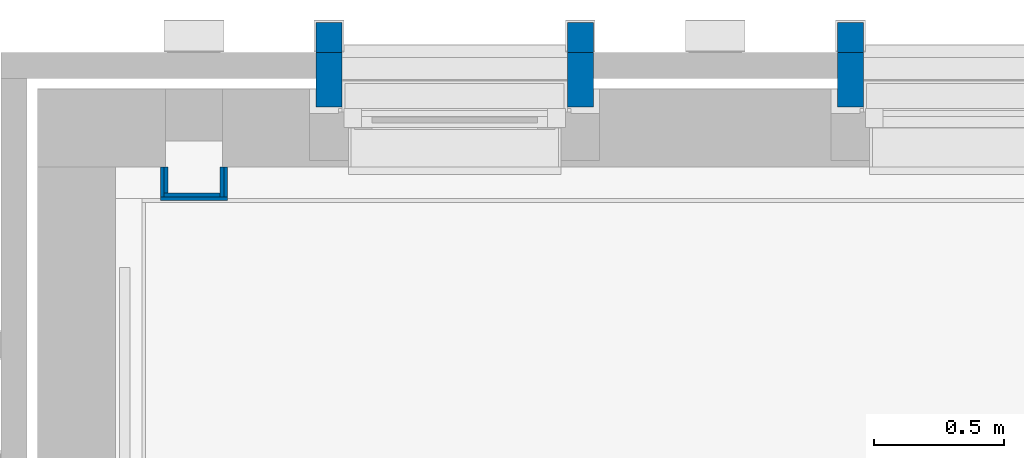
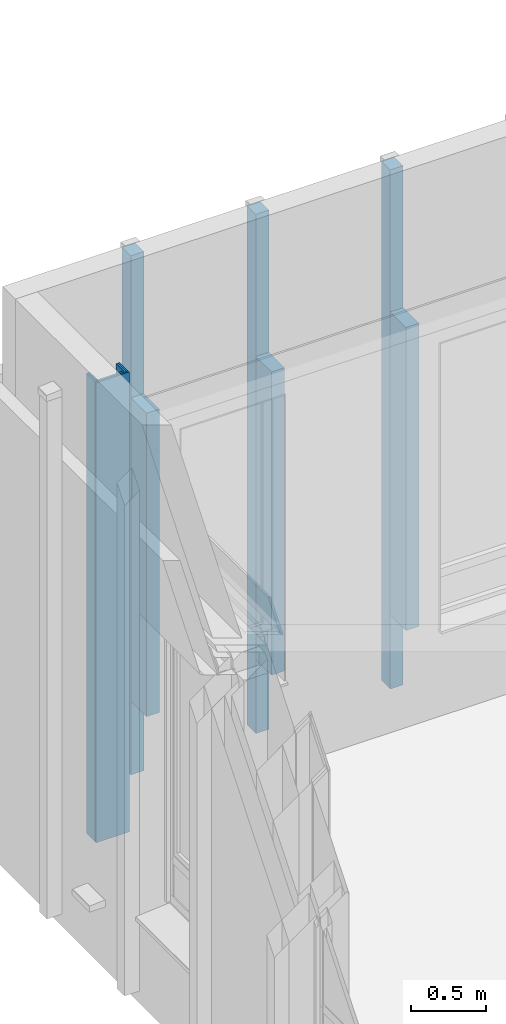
# One storey, part 56 of 118: 12 walls.
"""IFC2X3 building model written with IfcOpenShell, lengths in millimetres."""

from ifc_helpers import new_model, entity, si_unit, converted_unit, derived_unit, direction, frame, frame_2d, origin, place, context, subcontext, project, spatial, rectangle, extrude, material, layer, layer_set, layer_usage, type_object, element, save


model = new_model("IFC2X3")

# Units and contexts
model_context = context("Model", 3, precision=0.01, world=origin(), true_north=direction((6.123031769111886e-17, 1.0)))
plan_context = context("Plan", 3, precision=0.01, world=origin(), true_north=direction((6.123031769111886e-17, 1.0)))
body_context = subcontext(model_context, "Body", "Model", "MODEL_VIEW")
ifc_project = project(units=[si_unit("LENGTHUNIT", "METRE", prefix="MILLI"), si_unit("AREAUNIT", "SQUARE_METRE"), si_unit("VOLUMEUNIT", "CUBIC_METRE"), converted_unit("PLANEANGLEUNIT", "DEGREE", entity("IfcRatioMeasure", 0.017453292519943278), si_unit("PLANEANGLEUNIT", "RADIAN"), dimensions=[0, 0, 0, 0, 0, 0, 0]), si_unit("MASSUNIT", "GRAM", prefix="KILO"), derived_unit("MASSDENSITYUNIT", [(si_unit("MASSUNIT", "GRAM", prefix="KILO"), 1), (si_unit("LENGTHUNIT", "METRE"), -3)]), derived_unit("IONCONCENTRATIONUNIT", [(si_unit("MASSUNIT", "GRAM", prefix="KILO"), 1), (si_unit("LENGTHUNIT", "METRE"), -3)]), derived_unit("MOMENTOFINERTIAUNIT", [(si_unit("LENGTHUNIT", "METRE"), 4)]), si_unit("TIMEUNIT", "SECOND"), si_unit("FREQUENCYUNIT", "HERTZ"), si_unit("THERMODYNAMICTEMPERATUREUNIT", "DEGREE_CELSIUS"), derived_unit("THERMALTRANSMITTANCEUNIT", [(si_unit("MASSUNIT", "GRAM", prefix="KILO"), 1), (si_unit("THERMODYNAMICTEMPERATUREUNIT", "KELVIN"), -1), (si_unit("TIMEUNIT", "SECOND"), -3)]), derived_unit("THERMALCONDUCTANCEUNIT", [(si_unit("MASSUNIT", "GRAM", prefix="KILO"), 1), (si_unit("THERMODYNAMICTEMPERATUREUNIT", "KELVIN"), -1), (si_unit("TIMEUNIT", "SECOND"), -3), (si_unit("LENGTHUNIT", "METRE"), 1)]), derived_unit("VOLUMETRICFLOWRATEUNIT", [(si_unit("LENGTHUNIT", "METRE"), 3), (si_unit("TIMEUNIT", "SECOND"), -1)]), derived_unit("MASSFLOWRATEUNIT", [(si_unit("MASSUNIT", "GRAM", prefix="KILO"), 1), (si_unit("TIMEUNIT", "SECOND"), -1)]), derived_unit("ROTATIONALFREQUENCYUNIT", [(si_unit("TIMEUNIT", "SECOND"), -1)]), si_unit("ELECTRICCURRENTUNIT", "AMPERE"), si_unit("ELECTRICVOLTAGEUNIT", "VOLT"), si_unit("POWERUNIT", "WATT"), si_unit("FORCEUNIT", "NEWTON", prefix="KILO"), si_unit("ILLUMINANCEUNIT", "LUX"), si_unit("LUMINOUSFLUXUNIT", "LUMEN"), si_unit("LUMINOUSINTENSITYUNIT", "CANDELA"), derived_unit("USERDEFINED", [(si_unit("MASSUNIT", "GRAM", prefix="KILO"), -1), (si_unit("LENGTHUNIT", "METRE"), -2), (si_unit("TIMEUNIT", "SECOND"), 3), (si_unit("LUMINOUSFLUXUNIT", "LUMEN"), 1)]), derived_unit("USERDEFINED", [(si_unit("MASSUNIT", "GRAM", prefix="KILO"), 1), (si_unit("TIMEUNIT", "SECOND"), -3), (si_unit("LENGTHUNIT", "METRE"), 3), (si_unit("ELECTRICCURRENTUNIT", "AMPERE"), -2)]), derived_unit("SOUNDPOWERUNIT", [(si_unit("MASSUNIT", "GRAM", prefix="KILO"), 1), (si_unit("TIMEUNIT", "SECOND"), -3), (si_unit("LENGTHUNIT", "METRE"), 2)]), derived_unit("SOUNDPRESSUREUNIT", [(si_unit("MASSUNIT", "GRAM", prefix="KILO"), 1), (si_unit("LENGTHUNIT", "METRE"), -1), (si_unit("TIMEUNIT", "SECOND"), -2)]), derived_unit("LINEARVELOCITYUNIT", [(si_unit("LENGTHUNIT", "METRE"), 1), (si_unit("TIMEUNIT", "SECOND"), -1)]), si_unit("PRESSUREUNIT", "PASCAL"), derived_unit("USERDEFINED", [(si_unit("MASSUNIT", "GRAM", prefix="KILO"), 1), (si_unit("LENGTHUNIT", "METRE"), -2), (si_unit("TIMEUNIT", "SECOND"), -2)]), derived_unit("LINEARFORCEUNIT", [(si_unit("MASSUNIT", "GRAM", prefix="KILO"), 1), (si_unit("TIMEUNIT", "SECOND"), -2)]), derived_unit("PLANARFORCEUNIT", [(si_unit("MASSUNIT", "GRAM", prefix="KILO"), 1), (si_unit("LENGTHUNIT", "METRE"), -1), (si_unit("TIMEUNIT", "SECOND"), -2)]), derived_unit("SPECIFICHEATCAPACITYUNIT", [(si_unit("THERMODYNAMICTEMPERATUREUNIT", "KELVIN"), -1), (si_unit("LENGTHUNIT", "METRE"), 2), (si_unit("TIMEUNIT", "SECOND"), -2)]), derived_unit("HEATINGVALUEUNIT", [(si_unit("LENGTHUNIT", "METRE"), 2), (si_unit("TIMEUNIT", "SECOND"), -2)]), derived_unit("VAPORPERMEABILITYUNIT", [(si_unit("LENGTHUNIT", "METRE"), -1), (si_unit("TIMEUNIT", "SECOND"), 1)]), derived_unit("DYNAMICVISCOSITYUNIT", [(si_unit("MASSUNIT", "GRAM", prefix="KILO"), 1), (si_unit("TIMEUNIT", "SECOND"), -1), (si_unit("LENGTHUNIT", "METRE"), -1)]), derived_unit("THERMALEXPANSIONCOEFFICIENTUNIT", [(si_unit("THERMODYNAMICTEMPERATUREUNIT", "KELVIN"), -1)]), derived_unit("MODULUSOFELASTICITYUNIT", [(si_unit("MASSUNIT", "GRAM", prefix="KILO"), 1), (si_unit("LENGTHUNIT", "METRE"), -1), (si_unit("TIMEUNIT", "SECOND"), -2)]), derived_unit("ISOTHERMALMOISTURECAPACITYUNIT", [(si_unit("LENGTHUNIT", "METRE"), 3), (si_unit("MASSUNIT", "GRAM", prefix="KILO"), -1)]), derived_unit("MOISTUREDIFFUSIVITYUNIT", [(si_unit("TIMEUNIT", "SECOND"), -1), (si_unit("LENGTHUNIT", "METRE"), 2)])], contexts=[model_context, plan_context])

# Site, building, storey
site_placement = place(None, origin())
site = spatial("IfcSite", under=ifc_project, at=site_placement, Name="Locatie", CompositionType="ELEMENT")
building_placement = place(site_placement, origin())
building = spatial("IfcBuilding", under=site, at=building_placement, Name="Bouwwerk", CompositionType="ELEMENT")
storey_placement = place(building_placement, frame((0.0, 0.0, 7800.0)))
storey = spatial("IfcBuildingStorey", under=building, at=storey_placement, Name="02 tweede verdieping", CompositionType="ELEMENT", Elevation=7800.000000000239)

# Walls
ifc_material_1 = material(Name="g2_metselwerk_geel licht")
ifc_layer_1 = layer(ifc_material_1, 100.0)
ifc_layer_set_1 = layer_set([ifc_layer_1], Name="Basic Wall:21_WA_metselwerk_licht_100_gen_bdg")
ifc_layer_usage_1 = layer_usage(ifc_layer_set_1, "AXIS2", "POSITIVE", -50.0)
wall_type_1 = type_object("IfcWallType", Name="Basic Wall:21_WA_metselwerk_licht_100_gen_bdg", PredefinedType="STANDARD", material=ifc_layer_set_1)
wall_1_placement = place(storey_placement, frame((12818.0, 34630.0, 603.0), z_axis=(0.0, 0.0, 1.0), x_axis=(0.0, 1.0, 0.0)))
element("IfcWallStandardCase", 1, at=wall_1_placement, inside=storey, type_object=wall_type_1, material=ifc_layer_usage_1, Name="Basic Wall:21_WA_metselwerk_licht_100_gen_bdg", ObjectType="Basic Wall:21_WA_metselwerk_licht_100_gen_bdg", context=body_context, shape_type="SweptSolid", body=[
    extrude(rectangle(XDim=210.00000000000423, YDim=99.99999999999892, at=frame_2d((105.00000000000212, 5.435651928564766e-13), x_axis=(-1.0, 0.0))), origin(), (0.0, 0.0, 1.0), 2471.999999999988),
])
wall_2_placement = place(storey_placement, frame((12818.0, 34840.0, 0.0), z_axis=(0.0, 0.0, 1.0), x_axis=(0.0, 1.0, 0.0)))
element("IfcWallStandardCase", 2, at=wall_2_placement, inside=storey, type_object=wall_type_1, material=ifc_layer_usage_1, Name="Basic Wall:21_WA_metselwerk_licht_100_gen_bdg", ObjectType="Basic Wall:21_WA_metselwerk_licht_100_gen_bdg", context=body_context, shape_type="SweptSolid", body=[
    extrude(rectangle(XDim=114.99999999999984, YDim=99.99999999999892, at=frame_2d((57.49999999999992, 6.608047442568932e-13), x_axis=(-1.0, 0.0))), origin(), (0.0, 0.0, 1.0), 4231.99999999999),
])
ifc_layer_usage_2 = layer_usage(ifc_layer_set_1, "AXIS2", "NEGATIVE", 50.0)
wall_3_placement = place(storey_placement, frame((11782.0, 34630.0, 603.0), z_axis=(0.0, 0.0, 1.0), x_axis=(0.0, 1.0, 0.0)))
element("IfcWallStandardCase", 3, at=wall_3_placement, inside=storey, type_object=wall_type_1, material=ifc_layer_usage_2, Name="Basic Wall:21_WA_metselwerk_licht_100_gen_bdg", ObjectType="Basic Wall:21_WA_metselwerk_licht_100_gen_bdg", context=body_context, shape_type="SweptSolid", body=[
    extrude(rectangle(XDim=210.00000000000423, YDim=99.99999999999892, at=frame_2d((105.00000000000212, 1.4210854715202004e-13), x_axis=(-1.0, 0.0))), origin(), (0.0, 0.0, 1.0), 2471.999999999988),
])
wall_4_placement = place(storey_placement, frame((11782.0, 34840.0, 0.0), z_axis=(0.0, 0.0, 1.0), x_axis=(0.0, 1.0, 0.0)))
element("IfcWallStandardCase", 4, at=wall_4_placement, inside=storey, type_object=wall_type_1, material=ifc_layer_usage_2, Name="Basic Wall:21_WA_metselwerk_licht_100_gen_bdg", ObjectType="Basic Wall:21_WA_metselwerk_licht_100_gen_bdg", context=body_context, shape_type="SweptSolid", body=[
    extrude(rectangle(XDim=114.99999999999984, YDim=99.99999999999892, at=frame_2d((57.49999999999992, 6.608047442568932e-13), x_axis=(-1.0, 0.0))), origin(), (0.0, 0.0, 1.0), 4232.000000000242),
])
wall_5_placement = place(storey_placement, frame((10818.0, 34630.0, 603.0), z_axis=(0.0, 0.0, 1.0), x_axis=(0.0, 1.0, 0.0)))
element("IfcWallStandardCase", 5, at=wall_5_placement, inside=storey, type_object=wall_type_1, material=ifc_layer_usage_1, Name="Basic Wall:21_WA_metselwerk_licht_100_gen_bdg", ObjectType="Basic Wall:21_WA_metselwerk_licht_100_gen_bdg", context=body_context, shape_type="SweptSolid", body=[
    extrude(rectangle(XDim=210.00000000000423, YDim=99.99999999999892, at=frame_2d((105.00000000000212, 5.435651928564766e-13), x_axis=(-1.0, 0.0))), origin(), (0.0, 0.0, 1.0), 2471.999999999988),
])
wall_6_placement = place(storey_placement, frame((10818.0, 34840.0, 0.0), z_axis=(0.0, 0.0, 1.0), x_axis=(0.0, 1.0, 0.0)))
element("IfcWallStandardCase", 6, at=wall_6_placement, inside=storey, type_object=wall_type_1, material=ifc_layer_usage_1, Name="Basic Wall:21_WA_metselwerk_licht_100_gen_bdg", ObjectType="Basic Wall:21_WA_metselwerk_licht_100_gen_bdg", context=body_context, shape_type="SweptSolid", body=[
    extrude(rectangle(XDim=114.99999999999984, YDim=99.99999999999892, at=frame_2d((57.49999999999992, 6.608047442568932e-13), x_axis=(-1.0, 0.0))), origin(), (0.0, 0.0, 1.0), 4231.99999999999),
])
ifc_material_2 = material(Name="f7_gipsvezel")
ifc_layer_2 = layer(ifc_material_2, 13.000000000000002)
ifc_layer_set_2 = layer_set([ifc_layer_2], Name="Basic Wall:NLRS_41_WA_gips 13_gen_ISR")
ifc_layer_usage_3 = layer_usage(ifc_layer_set_2, "AXIS2", "NEGATIVE", 6.500000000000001)
wall_type_2 = type_object("IfcWallType", Name="Basic Wall:NLRS_41_WA_gips 13_gen_ISR", PredefinedType="STANDARD", material=ifc_layer_set_2)
wall_7_placement = place(storey_placement, frame((10428.0, 34278.499999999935, 0.0), z_axis=(0.0, 0.0, 1.0), x_axis=(-1.0, 0.0, 0.0)))
element("IfcWallStandardCase", 7, at=wall_7_placement, inside=storey, type_object=wall_type_2, material=ifc_layer_usage_3, Name="Basic Wall:NLRS_41_WA_gips 13_gen_ISR", ObjectType="Basic Wall:NLRS_41_WA_gips 13_gen_ISR", context=body_context, shape_type="SweptSolid", body=[
    extrude(rectangle(XDim=256.0000000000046, YDim=12.999999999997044, at=frame_2d((128.0000000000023, 0.0), x_axis=(-1.0, 0.0))), origin(), (0.0, 0.0, 1.0), 3750.000000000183),
])
wall_8_placement = place(storey_placement, frame((10178.500000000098, 34285.0, 0.0), z_axis=(0.0, 0.0, 1.0), x_axis=(0.0, 1.0, 0.0)))
element("IfcWallStandardCase", 8, at=wall_8_placement, inside=storey, type_object=wall_type_2, material=ifc_layer_usage_3, Name="Basic Wall:NLRS_41_WA_gips 13_gen_ISR", ObjectType="Basic Wall:NLRS_41_WA_gips 13_gen_ISR", context=body_context, shape_type="SweptSolid", body=[
    extrude(rectangle(XDim=114.99999999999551, YDim=13.000000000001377, at=frame_2d((57.499999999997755, 0.0), x_axis=(-1.0, 0.0))), origin(), (0.0, 0.0, 1.0), 3750.000000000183),
])
ifc_layer_usage_4 = layer_usage(ifc_layer_set_2, "AXIS2", "POSITIVE", -6.500000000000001)
wall_9_placement = place(storey_placement, frame((10421.500000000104, 34285.0, 0.0), z_axis=(0.0, 0.0, 1.0), x_axis=(0.0, 1.0, 0.0)))
element("IfcWallStandardCase", 9, at=wall_9_placement, inside=storey, type_object=wall_type_2, material=ifc_layer_usage_4, Name="Basic Wall:NLRS_41_WA_gips 13_gen_ISR", ObjectType="Basic Wall:NLRS_41_WA_gips 13_gen_ISR", context=body_context, shape_type="SweptSolid", body=[
    extrude(rectangle(XDim=114.99999999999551, YDim=13.000000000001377, at=frame_2d((57.499999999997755, 0.0), x_axis=(-1.0, 0.0))), origin(), (0.0, 0.0, 1.0), 3750.000000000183),
])
ifc_material_3 = material(Name="ISR_brandwerende beplating")
ifc_layer_3 = layer(ifc_material_3, 15.0)
ifc_layer_set_3 = layer_set([ifc_layer_3], Name="Basic Wall:NLRS_41_WA_brandwerende beplating 15_gen_ISR")
ifc_layer_usage_5 = layer_usage(ifc_layer_set_3, "AXIS2", "NEGATIVE", 7.5)
wall_type_3 = type_object("IfcWallType", Name="Basic Wall:NLRS_41_WA_brandwerende beplating 15_gen_ISR", PredefinedType="STANDARD", material=ifc_layer_set_3)
wall_10_placement = place(storey_placement, frame((10407.5000000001, 34400.0, 0.0), z_axis=(0.0, 0.0, 1.0), x_axis=(0.0, -1.0, 0.0)))
element("IfcWallStandardCase", 10, at=wall_10_placement, inside=storey, type_object=wall_type_3, material=ifc_layer_usage_5, Name="Basic Wall:NLRS_41_WA_brandwerende beplating 15_gen_ISR", ObjectType="Basic Wall:NLRS_41_WA_brandwerende beplating 15_gen_ISR", context=body_context, shape_type="SweptSolid", body=[
    extrude(rectangle(XDim=114.99999999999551, YDim=15.000000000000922, at=frame_2d((57.499999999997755, 0.0), x_axis=(-1.0, 0.0))), origin(), (0.0, 0.0, 1.0), 3750.000000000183),
])
wall_11_placement = place(storey_placement, frame((10400.0, 34292.499999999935, 0.0), z_axis=(0.0, 0.0, 1.0), x_axis=(-1.0, 0.0, 0.0)))
element("IfcWallStandardCase", 11, at=wall_11_placement, inside=storey, type_object=wall_type_3, material=ifc_layer_usage_5, Name="Basic Wall:NLRS_41_WA_brandwerende beplating 15_gen_ISR", ObjectType="Basic Wall:NLRS_41_WA_brandwerende beplating 15_gen_ISR", context=body_context, shape_type="SweptSolid", body=[
    extrude(rectangle(XDim=215.00000000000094, YDim=14.99999999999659, at=frame_2d((107.50000000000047, 0.0), x_axis=(-1.0, 0.0))), origin(), (0.0, 0.0, 1.0), 3750.000000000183),
])
wall_12_placement = place(storey_placement, frame((10192.5000000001, 34300.0, 0.0), z_axis=(0.0, 0.0, 1.0), x_axis=(0.0, 1.0, 0.0)))
element("IfcWallStandardCase", 12, at=wall_12_placement, inside=storey, type_object=wall_type_3, material=ifc_layer_usage_5, Name="Basic Wall:NLRS_41_WA_brandwerende beplating 15_gen_ISR", ObjectType="Basic Wall:NLRS_41_WA_brandwerende beplating 15_gen_ISR", context=body_context, shape_type="SweptSolid", body=[
    extrude(rectangle(XDim=99.99999999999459, YDim=15.000000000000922, at=frame_2d((49.99999999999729, 0.0), x_axis=(-1.0, 0.0))), origin(), (0.0, 0.0, 1.0), 3750.000000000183),
])

save(model, "model.ifc")
